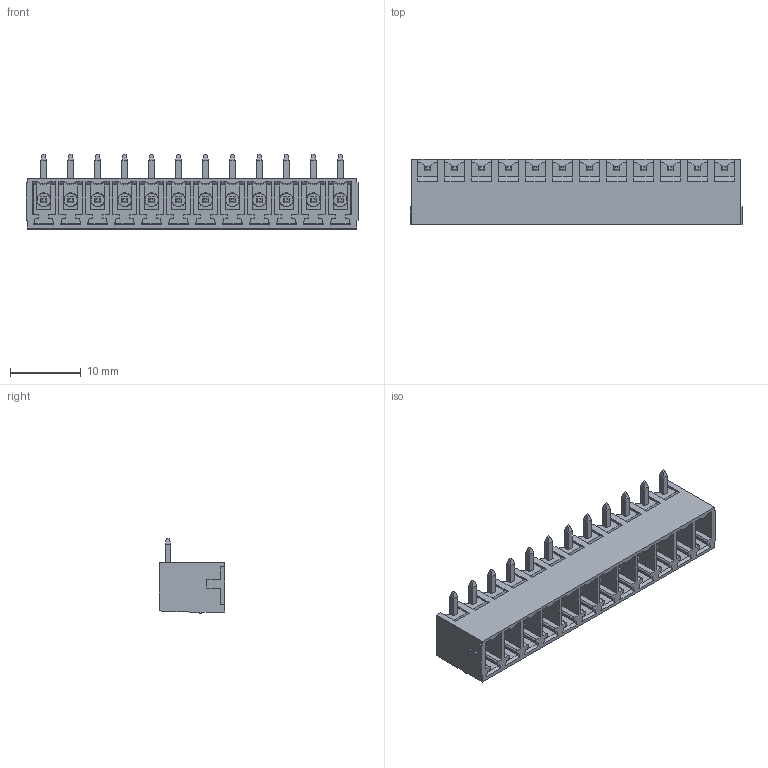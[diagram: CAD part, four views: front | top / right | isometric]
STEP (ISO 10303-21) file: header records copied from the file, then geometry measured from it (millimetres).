
FILE_DESCRIPTION(('FreeCAD Model'),'2;1');
FILE_NAME('Open CASCADE Shape Model','2023-05-24T16:22:17',('Author'),( ''),'Open CASCADE STEP processor 7.6','FreeCAD','Unknown');
FILE_SCHEMA(('AUTOMOTIVE_DESIGN { 1 0 10303 214 1 1 1 1 }'));
Products named in the file (1): BR7MN2-12
Bounding box: 46.91 x 9.2 x 10.6 mm (x, y, z)
Volume: 1423 mm3; surface area: 4289.1 mm2
Topology: 1 solids, 13 shells, 1035 faces, 2655 edges, 1670 vertices
Faces by surface type: plane 902, cylinder 73, cone 36, sphere 24
Entity records: 66231 total; most frequent: CARTESIAN_POINT 12573, DIRECTION 10054, LINE 7313, VECTOR 7313, ORIENTED_EDGE 5262, PCURVE 5262, DEFINITIONAL_REPRESENTATION 5262, EDGE_CURVE 2631
